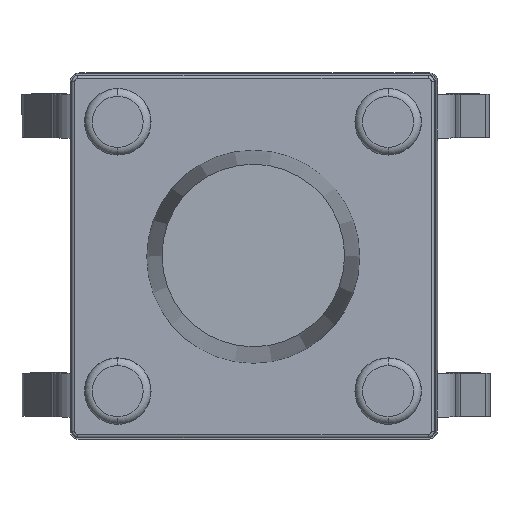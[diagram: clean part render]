
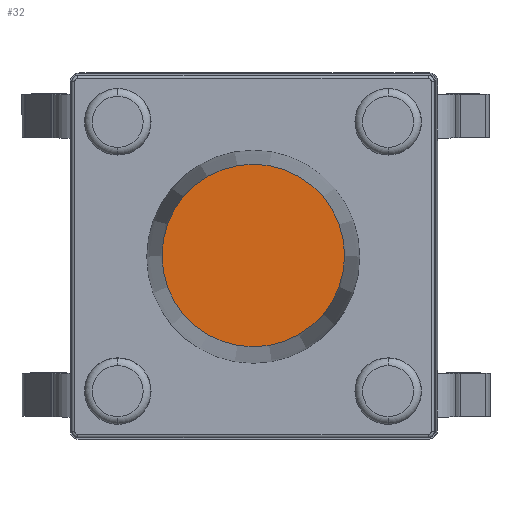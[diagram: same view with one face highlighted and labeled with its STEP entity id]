
A CAD part, top view. The second image highlights one B-rep face of the part: STEP entity #32.
In plain terms, the highlighted planar face has unit normal (0, 0, 1).
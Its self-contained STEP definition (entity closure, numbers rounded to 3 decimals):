
#32 = ADVANCED_FACE('',(#33),#46,.T.);
#33 = FACE_BOUND('',#34,.T.);
#34 = EDGE_LOOP('',(#35));
#35 = ORIENTED_EDGE('',*,*,#36,.T.);
#36 = EDGE_CURVE('',#37,#37,#39,.T.);
#37 = VERTEX_POINT('',#38);
#38 = CARTESIAN_POINT('',(-4.525,-0.033,14.95));
#39 = SURFACE_CURVE('',#40,(#45,#57),.PCURVE_S1.);
#40 = CIRCLE('',#41,1.5);
#41 = AXIS2_PLACEMENT_3D('',#42,#43,#44);
#42 = CARTESIAN_POINT('',(-6.025,-0.033,14.95));
#43 = DIRECTION('',(0.,0.,1.));
#44 = DIRECTION('',(1.,0.,0.));
#45 = PCURVE('',#46,#51);
#46 = PLANE('',#47);
#47 = AXIS2_PLACEMENT_3D('',#48,#49,#50);
#48 = CARTESIAN_POINT('',(-6.025,-0.033,14.95));
#49 = DIRECTION('',(0.,0.,1.));
#50 = DIRECTION('',(1.,0.,0.));
#51 = DEFINITIONAL_REPRESENTATION('',(#52),#56);
#52 = CIRCLE('',#53,1.5);
#53 = AXIS2_PLACEMENT_2D('',#54,#55);
#54 = CARTESIAN_POINT('',(0.,0.));
#55 = DIRECTION('',(1.,0.));
#56 = ( GEOMETRIC_REPRESENTATION_CONTEXT(2) 
PARAMETRIC_REPRESENTATION_CONTEXT() REPRESENTATION_CONTEXT('2D SPACE',''
  ) );
#57 = PCURVE('',#58,#63);
#58 = CONICAL_SURFACE('',#59,1.5,0.022);
#59 = AXIS2_PLACEMENT_3D('',#60,#61,#62);
#60 = CARTESIAN_POINT('',(-6.025,-0.033,14.95));
#61 = DIRECTION('',(-0.,-0.,-1.));
#62 = DIRECTION('',(1.,0.,0.));
#63 = DEFINITIONAL_REPRESENTATION('',(#64),#68);
#64 = LINE('',#65,#66);
#65 = CARTESIAN_POINT('',(-0.,0.));
#66 = VECTOR('',#67,1.);
#67 = DIRECTION('',(-1.,0.));
#68 = ( GEOMETRIC_REPRESENTATION_CONTEXT(2) 
PARAMETRIC_REPRESENTATION_CONTEXT() REPRESENTATION_CONTEXT('2D SPACE',''
  ) );
